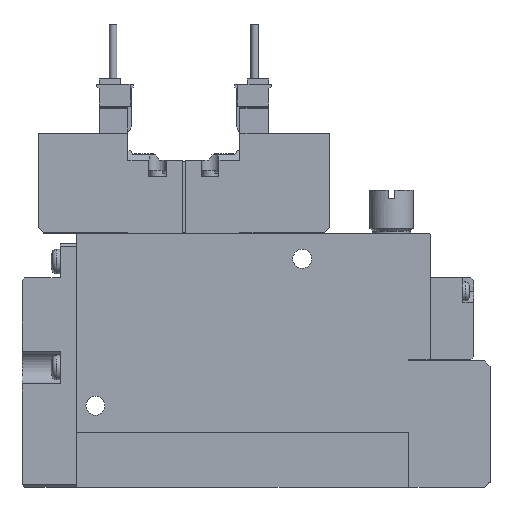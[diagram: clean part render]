
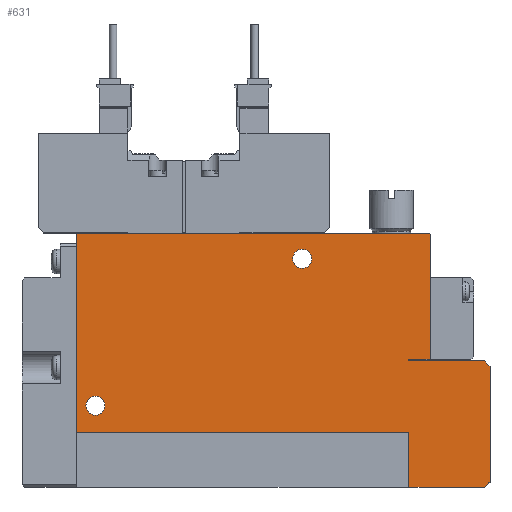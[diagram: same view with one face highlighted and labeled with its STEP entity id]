
A CAD part, top view. The second image highlights one B-rep face of the part: STEP entity #631.
In plain terms, the highlighted planar face has unit normal (0, 0, 1).
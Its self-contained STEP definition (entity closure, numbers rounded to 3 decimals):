
#631=ADVANCED_FACE('',(#1343,#1344,#1345),#1346,.F.);
#1343=FACE_OUTER_BOUND('',#2120,.T.);
#1344=FACE_BOUND('',#2121,.T.);
#1345=FACE_BOUND('',#2122,.T.);
#1346=PLANE('',#2123);
#2120=EDGE_LOOP('',(#4718,#4719,#4720,#4721,#4722,#4723,#4724,#4725,#4726,#4727,#4728,#4729,#4730,#4731));
#2121=EDGE_LOOP('',(#4732));
#2122=EDGE_LOOP('',(#4733));
#2123=AXIS2_PLACEMENT_3D('',#4734,#4735,#4736);
#4718=ORIENTED_EDGE('',*,*,#5891,.T.);
#4719=ORIENTED_EDGE('',*,*,#5907,.F.);
#4720=ORIENTED_EDGE('',*,*,#5912,.F.);
#4721=ORIENTED_EDGE('',*,*,#5888,.T.);
#4722=ORIENTED_EDGE('',*,*,#5904,.T.);
#4723=ORIENTED_EDGE('',*,*,#5840,.T.);
#4724=ORIENTED_EDGE('',*,*,#5876,.T.);
#4725=ORIENTED_EDGE('',*,*,#5797,.T.);
#4726=ORIENTED_EDGE('',*,*,#5857,.T.);
#4727=ORIENTED_EDGE('',*,*,#5850,.T.);
#4728=ORIENTED_EDGE('',*,*,#5870,.T.);
#4729=ORIENTED_EDGE('',*,*,#5884,.T.);
#4730=ORIENTED_EDGE('',*,*,#5873,.T.);
#4731=ORIENTED_EDGE('',*,*,#5897,.T.);
#4732=ORIENTED_EDGE('',*,*,#5899,.F.);
#4733=ORIENTED_EDGE('',*,*,#5905,.F.);
#4734=CARTESIAN_POINT('',(0.0,0.0,5.0));
#4735=DIRECTION('',(0.0,0.0,-1.0));
#4736=DIRECTION('',(0.0,-1.0,0.0));
#5797=EDGE_CURVE('',#7166,#7164,#7167,.T.);
#5840=EDGE_CURVE('',#7248,#7246,#7249,.T.);
#5850=EDGE_CURVE('',#7264,#7262,#7265,.T.);
#5857=EDGE_CURVE('',#7164,#7264,#7274,.T.);
#5870=EDGE_CURVE('',#7262,#7294,#7296,.T.);
#5873=EDGE_CURVE('',#7302,#7300,#7303,.T.);
#5876=EDGE_CURVE('',#7246,#7166,#7306,.T.);
#5884=EDGE_CURVE('',#7294,#7302,#7317,.T.);
#5888=EDGE_CURVE('',#7319,#7323,#7325,.T.);
#5891=EDGE_CURVE('',#7331,#7329,#7332,.T.);
#5897=EDGE_CURVE('',#7300,#7331,#7338,.T.);
#5899=EDGE_CURVE('',#7341,#7341,#7342,.T.);
#5904=EDGE_CURVE('',#7323,#7248,#7349,.T.);
#5905=EDGE_CURVE('',#7350,#7350,#7351,.T.);
#5907=EDGE_CURVE('',#7353,#7329,#7354,.T.);
#5912=EDGE_CURVE('',#7319,#7353,#7360,.T.);
#7164=VERTEX_POINT('',#9345);
#7166=VERTEX_POINT('',#9348);
#7167=LINE('',#9349,#9350);
#7246=VERTEX_POINT('',#9460);
#7248=VERTEX_POINT('',#9463);
#7249=LINE('',#9464,#9465);
#7262=VERTEX_POINT('',#9486);
#7264=VERTEX_POINT('',#9489);
#7265=LINE('',#9490,#9491);
#7274=LINE('',#9504,#9505);
#7294=VERTEX_POINT('',#9532);
#7296=LINE('',#9535,#9536);
#7300=VERTEX_POINT('',#9541);
#7302=VERTEX_POINT('',#9544);
#7303=LINE('',#9545,#9546);
#7306=LINE('',#9551,#9552);
#7317=LINE('',#9569,#9570);
#7319=VERTEX_POINT('',#9572);
#7323=VERTEX_POINT('',#9578);
#7325=LINE('',#9581,#9582);
#7329=VERTEX_POINT('',#9587);
#7331=VERTEX_POINT('',#9590);
#7332=LINE('',#9591,#9592);
#7338=LINE('',#9602,#9603);
#7341=VERTEX_POINT('',#9606);
#7342=CIRCLE('',#9607,1.75);
#7349=LINE('',#9617,#9618);
#7350=VERTEX_POINT('',#9619);
#7351=CIRCLE('',#9620,1.75);
#7353=VERTEX_POINT('',#9623);
#7354=LINE('',#9624,#9625);
#7360=LINE('',#9635,#9636);
#9345=CARTESIAN_POINT('',(61.0,23.25,5.0));
#9348=CARTESIAN_POINT('',(75.0,23.25,5.0));
#9349=CARTESIAN_POINT('',(75.0,23.25,5.0));
#9350=VECTOR('',#10876,1.0);
#9460=CARTESIAN_POINT('',(76.0,22.25,5.0));
#9463=CARTESIAN_POINT('',(76.0,1.0,5.0));
#9464=CARTESIAN_POINT('',(76.0,1.0,5.0));
#9465=VECTOR('',#10939,1.0);
#9486=CARTESIAN_POINT('',(65.0,23.5,5.0));
#9489=CARTESIAN_POINT('',(61.0,23.5,5.0));
#9490=CARTESIAN_POINT('',(61.0,23.5,5.0));
#9491=VECTOR('',#10949,1.0);
#9504=CARTESIAN_POINT('',(61.0,23.25,5.0));
#9505=VECTOR('',#10960,1.0);
#9532=CARTESIAN_POINT('',(65.0,46.4,5.0));
#9535=CARTESIAN_POINT('',(65.0,23.5,5.0));
#9536=VECTOR('',#10981,1.0);
#9541=CARTESIAN_POINT('',(0.2,46.6,5.0));
#9544=CARTESIAN_POINT('',(64.8,46.6,5.0));
#9545=CARTESIAN_POINT('',(64.8,46.6,5.0));
#9546=VECTOR('',#10984,1.0);
#9551=CARTESIAN_POINT('',(76.0,22.25,5.0));
#9552=VECTOR('',#10987,1.0);
#9569=CARTESIAN_POINT('',(65.0,46.4,5.0));
#9570=VECTOR('',#10997,1.0);
#9572=CARTESIAN_POINT('',(61.1,0.0,5.0));
#9578=CARTESIAN_POINT('',(75.0,0.0,5.0));
#9581=CARTESIAN_POINT('',(0.0,0.0,5.0));
#9582=VECTOR('',#11001,1.0);
#9587=CARTESIAN_POINT('',(0.0,10.1,5.0));
#9590=CARTESIAN_POINT('',(0.0,46.4,5.0));
#9591=CARTESIAN_POINT('',(0.0,46.4,5.0));
#9592=VECTOR('',#11004,1.0);
#9602=CARTESIAN_POINT('',(0.2,46.6,5.0));
#9603=VECTOR('',#11012,1.0);
#9606=CARTESIAN_POINT('',(5.25,15.0,5.0));
#9607=AXIS2_PLACEMENT_3D('',#11016,#11017,#11018);
#9617=CARTESIAN_POINT('',(75.0,0.0,5.0));
#9618=VECTOR('',#11025,1.0);
#9619=CARTESIAN_POINT('',(43.25,42.0,5.0));
#9620=AXIS2_PLACEMENT_3D('',#11026,#11027,#11028);
#9623=CARTESIAN_POINT('',(61.1,10.1,5.0));
#9624=CARTESIAN_POINT('',(61.1,10.1,5.0));
#9625=VECTOR('',#11030,1.0);
#9635=CARTESIAN_POINT('',(61.1,0.0,5.0));
#9636=VECTOR('',#11035,1.0);
#10876=DIRECTION('',(-1.0,0.0,0.0));
#10939=DIRECTION('',(0.0,1.0,0.0));
#10949=DIRECTION('',(1.0,0.,0.0));
#10960=DIRECTION('',(0.0,1.0,0.0));
#10981=DIRECTION('',(0.0,1.0,0.0));
#10984=DIRECTION('',(-1.0,0.0,0.0));
#10987=DIRECTION('',(-0.707,0.707,0.0));
#10997=DIRECTION('',(-0.707,0.707,0.0));
#11001=DIRECTION('',(1.0,0.0,0.0));
#11004=DIRECTION('',(0.0,-1.0,0.0));
#11012=DIRECTION('',(-0.707,-0.707,0.0));
#11016=CARTESIAN_POINT('',(3.5,15.0,5.0));
#11017=DIRECTION('',(0.0,0.0,1.0));
#11018=DIRECTION('',(1.0,0.0,0.0));
#11025=DIRECTION('',(0.707,0.707,0.0));
#11026=CARTESIAN_POINT('',(41.5,42.0,5.0));
#11027=DIRECTION('',(0.0,0.0,1.0));
#11028=DIRECTION('',(1.0,0.0,0.0));
#11030=DIRECTION('',(-1.0,0.0,0.0));
#11035=DIRECTION('',(0.0,1.0,0.0));
